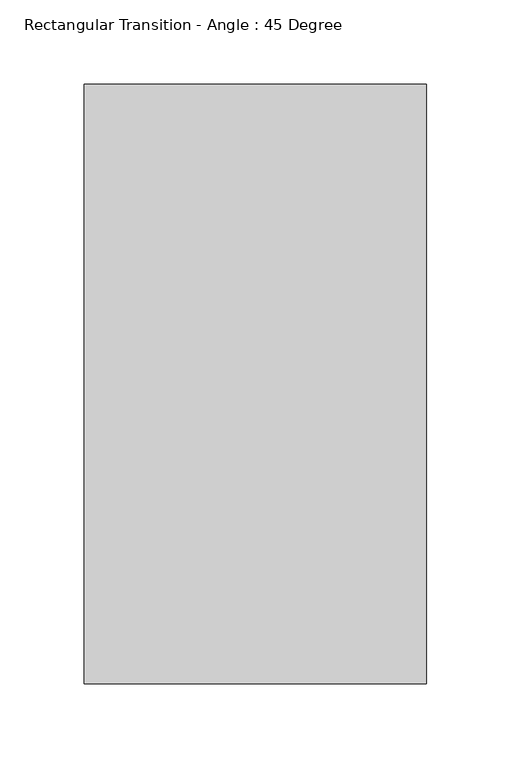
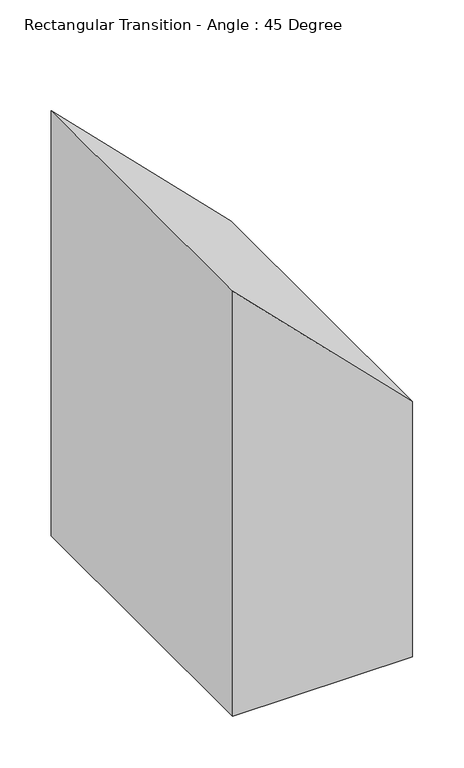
"""IFC4 building model written with IfcOpenShell, lengths in millimetres: duct fitting geometry, Rectangular Transition - Angle : 45 Degree."""

from ifc_helpers import new_model, si_unit, frame, origin, place, context, project, spatial, polyline, outline, extrude, source, transform, mapped, element, save


def rectangular_transition_angle_45_degree_57f880c2(model_context):
    return source(origin(), model_context, "Body", "SweptSolid", [
        extrude(outline(polyline([(254.0, 0.0), (-254.0, 0.0), (-254.0, 203.2), (50.8, 203.2), (254.0, 0.0)])), frame((0.0, -177.8, 0.0), z_axis=(0.0, 1.0, 0.0), x_axis=(0.0, 0.0, 1.0)), (0.0, 0.0, 1.0), 355.6),
    ])


if __name__ == "__main__":
    model = new_model("IFC4")
    model_context = context("Model", 3, world=origin())
    ifc_project = project(units=[si_unit("LENGTHUNIT", "METRE", prefix="MILLI")], contexts=[model_context])
    site = spatial("IfcSite", under=ifc_project)
    building = spatial("IfcBuilding", under=site)
    placement = place(None, origin())
    rectangular_transition_angle_45_degree_shape = rectangular_transition_angle_45_degree_57f880c2(model_context)
    element("IfcDuctFitting", 1, ObjectType="Rectangular Transition - Angle : 45 Degree", at=placement, inside=building, context=model_context, shape_type="MappedRepresentation", body=[
        mapped(rectangular_transition_angle_45_degree_shape, transform((0.0, 0.0, 0.0), x_axis=(1.0, 0.0, 0.0), y_axis=(0.0, 1.0, 0.0), z_axis=(0.0, 0.0, 1.0))),
    ])
    save(model, "model.ifc")
